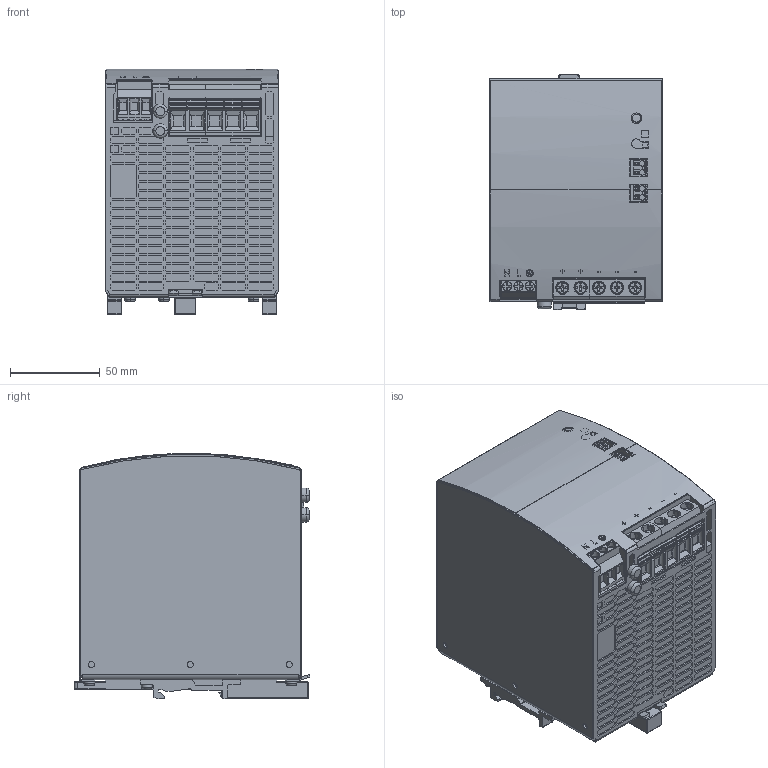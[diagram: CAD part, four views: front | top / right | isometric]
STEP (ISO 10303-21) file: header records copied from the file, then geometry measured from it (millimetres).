
FILE_DESCRIPTION (( 'STEP AP214' ), '1' );
FILE_NAME ('3D_SP960_241-S.STP', '2026-02-02T08:05:25', ( '' ), ( '' ), 'SwSTEP 2.0', 'SolidWorks 2024', '' );
FILE_SCHEMA (( 'AUTOMOTIVE_DESIGN' ));
Length unit declared in the file: millimetre
Products named in the file (10): 1042129_000_EW-444_992_10; 1042137_000_EL-444.940.00; 1042131_000; 1042127_000_EW-444.991.10_wire; 1015125_000_BRep_Config; 3D_SP960_241-S; 1042136_000; 1026580_000; 1015134_000_Feat_Config; 1018355_000_Feat_Config
Assembly tree (11 placements, depth 2):
  3D_SP960_241-S
    1042129_000_EW-444_992_10
    1042127_000_EW-444.991.10_wire
    1018355_000_Feat_Config
    1042131_000  x2
    1042136_000
    1042137_000_EL-444.940.00
    1026580_000
    1015134_000_Feat_Config  x2
    1015125_000_BRep_Config
Bounding box: 96 x 131.46 x 136.75 mm (x, y, z)
Volume: 1460008.8 mm3; surface area: 252189.6 mm2
Topology: 13 solids, 14 shells, 3878 faces, 11061 edges, 7254 vertices
Faces by surface type: plane 3215, cylinder 483, cone 83, bspline 71, torus 18, sphere 8
Entity records: 140748 total; most frequent: CARTESIAN_POINT 31863, ORIENTED_EDGE 20920, DIRECTION 18170, EDGE_CURVE 10460, VECTOR 8866, LINE 8866, VERTEX_POINT 6878, AXIS2_PLACEMENT_3D 4652
